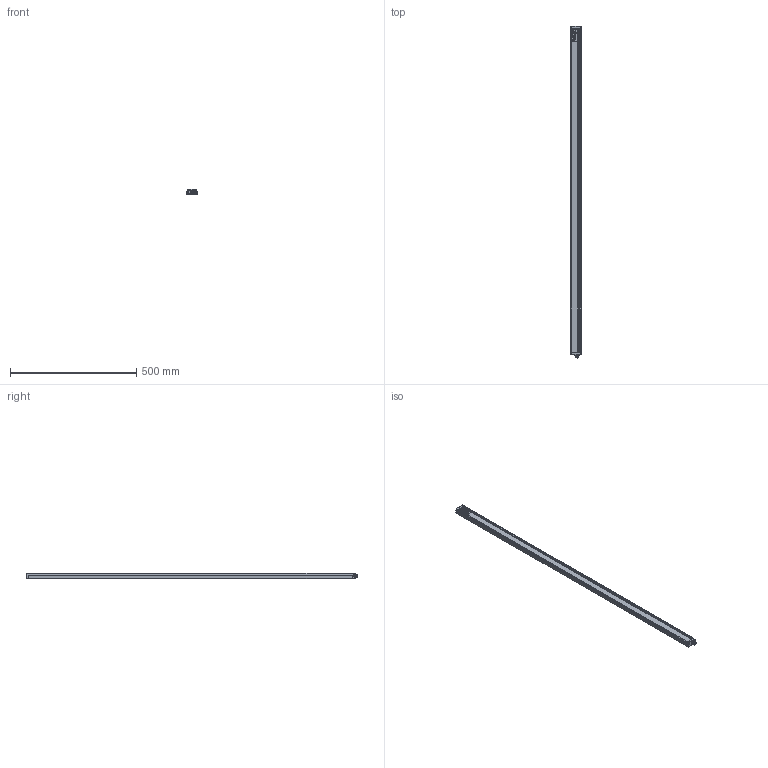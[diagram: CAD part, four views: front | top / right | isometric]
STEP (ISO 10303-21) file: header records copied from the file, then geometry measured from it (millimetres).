
FILE_DESCRIPTION(/* description */ (''),/* implementation_level */ '2;1');
FILE_NAME(/* name */ 'C:\Users\andre\SynologyDrive\Optoscan\Libreria Componenti\00 - Barriere\Barriera sorgente\Argo_1280_RX.stp',/* time_stamp */ '2021-04-22T12:00:31+02:00',/* author */ ('andre'),/* organization */ (''),/* preprocessor_version */ 'ST-DEVELOPER v18',/* originating_system */ 'Autodesk Inventor 2020',/* authorisation */ '');
FILE_SCHEMA (('AUTOMOTIVE_DESIGN { 1 0 10303 214 3 1 1 }'));
Length unit declared in the file: millimetre
Products named in the file (1): Argo_1280_RX
Bounding box: 40.5 x 1313.3 x 20.75 mm (x, y, z)
Volume: 260480.2 mm3; surface area: 343298.8 mm2
Topology: 1 solids, 1 shells, 692 faces, 1898 edges, 1217 vertices
Faces by surface type: plane 319, cylinder 195, bspline 94, torus 70, cone 8, sphere 6
Full cylindrical faces by diameter (mm): 1 x4, 2.459 x4, 2.5 x4, 3 x4, 3.5 x4, 5.5 x4, 8 x1, 10.5 x2, 11.75 x9, 15.7 x1, 17.5 x1
Entity records: 28165 total; most frequent: CARTESIAN_POINT 10195, ORIENTED_EDGE 3778, DIRECTION 3387, EDGE_CURVE 1889, VERTEX_POINT 1217, AXIS2_PLACEMENT_3D 1183, LINE 1021, VECTOR 1021
